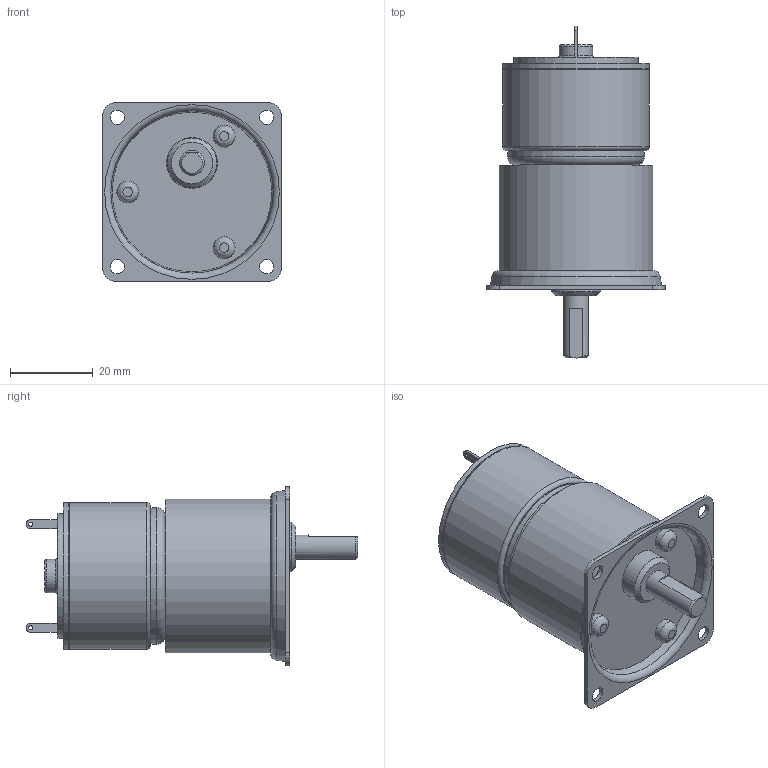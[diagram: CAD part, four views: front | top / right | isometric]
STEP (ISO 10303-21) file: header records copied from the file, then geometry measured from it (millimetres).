
FILE_DESCRIPTION((''),'2;1');
FILE_NAME('C:\Documents and Settings\SSEGAWA\デスクトップ\TP-3526G-PM-3.STP','2013-07-09T17:48:02',('SSEGAWA'),(''),'Autodesk Inventor 2010','Autodesk Inventor 2010','');
FILE_SCHEMA(('CONFIG_CONTROL_DESIGN'));
Length unit declared in the file: millimetre
Products named in the file (5): tp_3526g_pm_3; pm_3; km_3; □43; tp_3526g
Assembly tree (4 placements, depth 3):
  tp_3526g_pm_3
    pm_3
      km_3
      □43
    tp_3526g
Bounding box: 43 x 80 x 43 mm (x, y, z)
Volume: 55371.8 mm3; surface area: 15168 mm2
Topology: 3 solids, 3 shells, 107 faces, 226 edges, 148 vertices
Faces by surface type: plane 41, cylinder 31, bspline 24, torus 6, cone 5
Full cylindrical faces by diameter (mm): 2 x1, 2.4 x1, 4 x3, 5 x2, 5.3 x3, 6 x1, 8 x1, 10 x1, 12 x1, 12.2 x1, 30 x1, 33 x1, 35 x1, 35.4 x2, 37 x1
Entity records: 3085 total; most frequent: CARTESIAN_POINT 969, DIRECTION 439, ORIENTED_EDGE 302, EDGE_LOOP 199, AXIS2_PLACEMENT_3D 198, EDGE_CURVE 151, VERTEX_POINT 128, FACE_OUTER_BOUND 107
